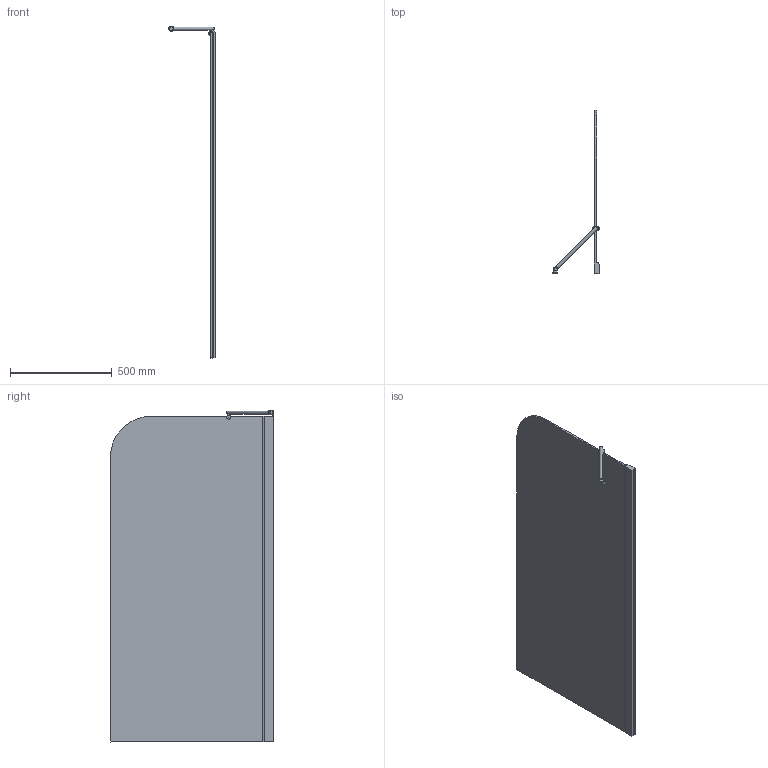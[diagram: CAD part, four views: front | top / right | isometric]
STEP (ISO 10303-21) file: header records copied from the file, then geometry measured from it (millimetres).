
FILE_DESCRIPTION(/* description */ (''),/* implementation_level */ '2;1');
FILE_NAME(/* name */ 'E:\Работа\Сергей\Душевые кабинки\! Работа\!!!!!!!!!!!!!!!!!!!\TREND PEARL GV-861AP\TREND PEARL GV-861AP левая модель\TREND PEARL GV-861AP ЛЕВАЯ-3D.stp',/* time_stamp */ '2018-06-22T17:51:37+03:00',/* author */ ('PC'),/* organization */ (''),/* preprocessor_version */ 'ST-DEVELOPER v15.2',/* originating_system */ 'Autodesk Inventor 2014',/* authorisation */ '');
FILE_SCHEMA (('CONFIG_CONTROL_DESIGN'));
Length unit declared in the file: millimetre
Products named in the file (1): TREND PEARL GV-861AP ЛЕВАЯ-3D
Bounding box: 229.2 x 800.14 x 1630.49 mm (x, y, z)
Volume: 11539437.8 mm3; surface area: 2649148.6 mm2
Topology: 2 solids, 2 shells, 50 faces, 141 edges, 96 vertices
Faces by surface type: plane 32, cylinder 13, bspline 2, sphere 2, torus 1
Full cylindrical faces by diameter (mm): 12 x1, 15 x1, 20 x2, 26 x1
Entity records: 1766 total; most frequent: CARTESIAN_POINT 487, ORIENTED_EDGE 244, DIRECTION 240, EDGE_CURVE 122, VERTEX_POINT 86, AXIS2_PLACEMENT_3D 83, LINE 74, VECTOR 74
